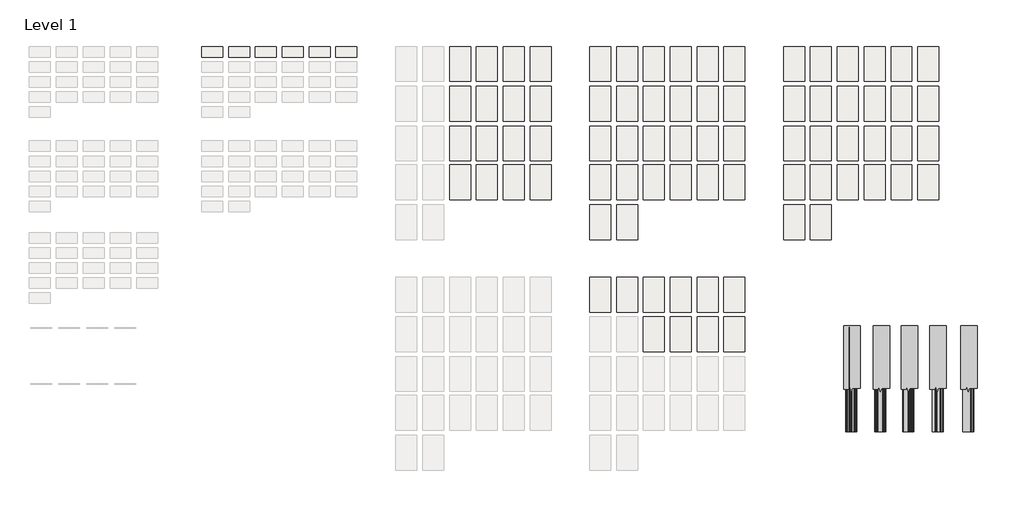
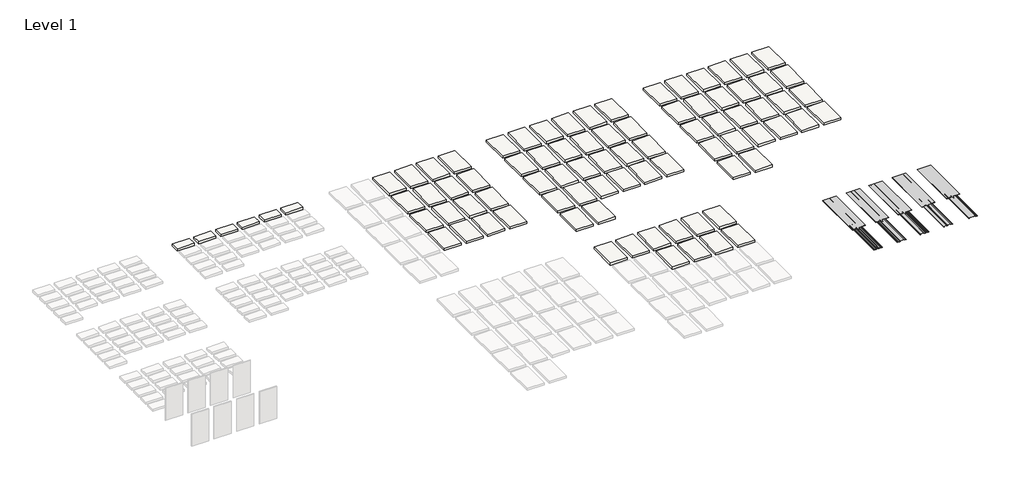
# One storey, part 3 of 3: 84 slabs, 10 proxies.
"""IFC4 building model written with IfcOpenShell, lengths in millimetres."""

from ifc_helpers import new_model, si_unit, frame, origin, place, context, project, spatial, polyline, outline, extrude, transform, mapped, element, save
from components import generic_models_2ece9b0f, generic_models_de4f6712, generic_models_fe2d6f0d, generic_models_0ef347b0, generic_models_e150f134, section_mask1_section_mask_8dde975a

model = new_model("IFC4")

# Units and contexts
model_context = context("Model", 3, world=origin())
ifc_project = project(units=[si_unit("LENGTHUNIT", "METRE", prefix="MILLI")], contexts=[model_context])

# Site, building, storey
site = spatial("IfcSite", under=ifc_project)
building = spatial("IfcBuilding", under=site)
storey = spatial("IfcBuildingStorey", under=building, Name="Level 1", Elevation=0.0)

# Proxies
placement = place(None, origin())
generic_models_shape = generic_models_2ece9b0f(model_context)
element("IfcBuildingElementProxy", 1, Name="Perception-Collection_Panel_PC-10_AEP_Span : Perception Collection PC10-12c - 20ga", ObjectType="Perception-Collection_Panel_PC-10_AEP_Span : Perception Collection PC10-12c - 20ga", at=placement, inside=storey, context=model_context, shape_type="MappedRepresentation", body=[
    mapped(generic_models_shape, transform((19743.0615812, 227.3326204, 0.0), x_axis=(1.0, 0.0, 0.0), y_axis=(0.0, 1.0, 0.0), z_axis=(0.0, 0.0, 1.0))),
])
generic_models_2_shape = generic_models_de4f6712(model_context)
element("IfcBuildingElementProxy", 2, Name="Perception-Collection_Panel_PC-20_AEP_Span : Perception Collection PC20-12c - 20ga", ObjectType="Perception-Collection_Panel_PC-20_AEP_Span : Perception Collection PC20-12c - 20ga", at=placement, inside=storey, context=model_context, shape_type="MappedRepresentation", body=[
    mapped(generic_models_2_shape, transform((20596.0575637, 227.3326204, 0.0), x_axis=(1.0, 0.0, 0.0), y_axis=(0.0, 1.0, 0.0), z_axis=(0.0, 0.0, 1.0))),
])
generic_models_3_shape = generic_models_fe2d6f0d(model_context)
element("IfcBuildingElementProxy", 3, Name="Perception-Collection_Panel_PC-30_AEP_Span : Perception Collection PC30-12c - 20ga", ObjectType="Perception-Collection_Panel_PC-30_AEP_Span : Perception Collection PC30-12c - 20ga", at=placement, inside=storey, context=model_context, shape_type="MappedRepresentation", body=[
    mapped(generic_models_3_shape, transform((21410.8596963, 227.3326204, 0.0), x_axis=(1.0, 0.0, 0.0), y_axis=(0.0, 1.0, 0.0), z_axis=(0.0, 0.0, 1.0))),
])
generic_models_4_shape = generic_models_0ef347b0(model_context)
element("IfcBuildingElementProxy", 4, Name="Perception-Collection_Panel_PC-40_AEP_Span : Perception Collection PC40-12c - 20ga", ObjectType="Perception-Collection_Panel_PC-40_AEP_Span : Perception Collection PC40-12c - 20ga", at=placement, inside=storey, context=model_context, shape_type="MappedRepresentation", body=[
    mapped(generic_models_4_shape, transform((22263.8556789, 227.3326204, 0.0), x_axis=(1.0, 0.0, 0.0), y_axis=(0.0, 1.0, 0.0), z_axis=(0.0, 0.0, 1.0))),
])
generic_models_5_shape = generic_models_e150f134(model_context)
element("IfcBuildingElementProxy", 5, Name="Perception-Collection_Panel_PC-50_AEP_Span : Perception Collection PC50-12c - 20ga", ObjectType="Perception-Collection_Panel_PC-50_AEP_Span : Perception Collection PC50-12c - 20ga", at=placement, inside=storey, context=model_context, shape_type="MappedRepresentation", body=[
    mapped(generic_models_5_shape, transform((23155.0455114, 227.3326204, 0.0), x_axis=(1.0, 0.0, 0.0), y_axis=(0.0, 1.0, 0.0), z_axis=(0.0, 0.0, 1.0))),
])
section_mask1_section_mask_shape = section_mask1_section_mask_8dde975a(model_context)
element("IfcBuildingElementProxy", 6, Name="Section Mask1 : Section Mask", ObjectType="Section Mask1 : Section Mask", at=placement, inside=storey, context=model_context, shape_type="MappedRepresentation", body=[
    mapped(section_mask1_section_mask_shape, transform((12382.9227958, -2188.6216763, -19.05), x_axis=(1.0, 0.0, 0.0), y_axis=(0.0, 1.0, 0.0), z_axis=(0.0, 0.0, 1.0))),
])
element("IfcBuildingElementProxy", 7, Name="Section Mask2 : Section Mask", ObjectType="Section Mask2 : Section Mask", at=placement, inside=storey, context=model_context, shape_type="MappedRepresentation", body=[
    mapped(section_mask1_section_mask_shape, transform((13197.7249283, -2188.6216763, -19.05), x_axis=(1.0, 0.0, 0.0), y_axis=(0.0, 1.0, 0.0), z_axis=(0.0, 0.0, 1.0))),
])
element("IfcBuildingElementProxy", 8, Name="Section Mask3 : Section Mask", ObjectType="Section Mask3 : Section Mask", at=placement, inside=storey, context=model_context, shape_type="MappedRepresentation", body=[
    mapped(section_mask1_section_mask_shape, transform((11529.9268132, -2188.6216763, -19.05), x_axis=(1.0, 0.0, 0.0), y_axis=(0.0, 1.0, 0.0), z_axis=(0.0, 0.0, 1.0))),
])
element("IfcBuildingElementProxy", 9, Name="Section Mask4 : Section Mask", ObjectType="Section Mask4 : Section Mask", at=placement, inside=storey, context=model_context, shape_type="MappedRepresentation", body=[
    mapped(section_mask1_section_mask_shape, transform((14034.0550498, -2188.6216763, -19.05), x_axis=(1.0, 0.0, 0.0), y_axis=(0.0, 1.0, 0.0), z_axis=(0.0, 0.0, 1.0))),
])
element("IfcBuildingElementProxy", 10, Name="Section Mask5 : Section Mask", ObjectType="Section Mask5 : Section Mask", at=placement, inside=storey, context=model_context, shape_type="MappedRepresentation", body=[
    mapped(section_mask1_section_mask_shape, transform((14935.8201205, -2188.6216763, -19.05), x_axis=(1.0, 0.0, 0.0), y_axis=(0.0, 1.0, 0.0), z_axis=(0.0, 0.0, 1.0))),
])

# Slabs
element("IfcSlab", 11, ObjectType="AEP Span Material Sample", at=placement, inside=storey, context=model_context, shape_type="SweptSolid", body=[
    extrude(outline(polyline([(8666.7651306, 7369.4013771), (8057.1651306, 7369.4013771), (8057.1651306, 8385.4013771), (8666.7651306, 8385.4013771), (8666.7651306, 7369.4013771)])), frame((0.0, 0.0, -79.375), z_axis=(0.0, 0.0, 1.0), x_axis=(1.0, 0.0, 0.0)), (0.0, 0.0, 1.0), 79.375),
])
element("IfcSlab", 12, ObjectType="AEP Span Material Sample", at=placement, inside=storey, context=model_context, shape_type="SweptSolid", body=[
    extrude(outline(polyline([(9447.8151306, 7369.4013771), (8838.2151306, 7369.4013771), (8838.2151306, 8385.4013771), (9447.8151306, 8385.4013771), (9447.8151306, 7369.4013771)])), frame((0.0, 0.0, -79.375), z_axis=(0.0, 0.0, 1.0), x_axis=(1.0, 0.0, 0.0)), (0.0, 0.0, 1.0), 79.375),
])
element("IfcSlab", 13, ObjectType="AEP Span Material Sample", at=placement, inside=storey, context=model_context, shape_type="SweptSolid", body=[
    extrude(outline(polyline([(10228.8651306, 7369.4013771), (9619.2651306, 7369.4013771), (9619.2651306, 8385.4013771), (10228.8651306, 8385.4013771), (10228.8651306, 7369.4013771)])), frame((0.0, 0.0, -79.375), z_axis=(0.0, 0.0, 1.0), x_axis=(1.0, 0.0, 0.0)), (0.0, 0.0, 1.0), 79.375),
])
element("IfcSlab", 14, ObjectType="AEP Span Material Sample", at=placement, inside=storey, context=model_context, shape_type="SweptSolid", body=[
    extrude(outline(polyline([(11009.9151306, 7369.4013771), (10400.3151306, 7369.4013771), (10400.3151306, 8385.4013771), (11009.9151306, 8385.4013771), (11009.9151306, 7369.4013771)])), frame((0.0, 0.0, -79.375), z_axis=(0.0, 0.0, 1.0), x_axis=(1.0, 0.0, 0.0)), (0.0, 0.0, 1.0), 79.375),
])
element("IfcSlab", 15, ObjectType="AEP Span Material Sample", at=placement, inside=storey, context=model_context, shape_type="SweptSolid", body=[
    extrude(outline(polyline([(8666.7651306, 6213.7013771), (8057.1651306, 6213.7013771), (8057.1651306, 7229.7013771), (8666.7651306, 7229.7013771), (8666.7651306, 6213.7013771)])), frame((0.0, 0.0, -79.375), z_axis=(0.0, 0.0, 1.0), x_axis=(1.0, 0.0, 0.0)), (0.0, 0.0, 1.0), 79.375),
])
element("IfcSlab", 16, ObjectType="AEP Span Material Sample", at=placement, inside=storey, context=model_context, shape_type="SweptSolid", body=[
    extrude(outline(polyline([(9447.8151306, 6213.7013771), (8838.2151306, 6213.7013771), (8838.2151306, 7229.7013771), (9447.8151306, 7229.7013771), (9447.8151306, 6213.7013771)])), frame((0.0, 0.0, -79.375), z_axis=(0.0, 0.0, 1.0), x_axis=(1.0, 0.0, 0.0)), (0.0, 0.0, 1.0), 79.375),
])
element("IfcSlab", 17, ObjectType="AEP Span Material Sample", at=placement, inside=storey, context=model_context, shape_type="SweptSolid", body=[
    extrude(outline(polyline([(10228.8651306, 6213.7013771), (9619.2651306, 6213.7013771), (9619.2651306, 7229.7013771), (10228.8651306, 7229.7013771), (10228.8651306, 6213.7013771)])), frame((0.0, 0.0, -79.375), z_axis=(0.0, 0.0, 1.0), x_axis=(1.0, 0.0, 0.0)), (0.0, 0.0, 1.0), 79.375),
])
element("IfcSlab", 18, ObjectType="AEP Span Material Sample", at=placement, inside=storey, context=model_context, shape_type="SweptSolid", body=[
    extrude(outline(polyline([(11009.9151306, 6213.7013771), (10400.3151306, 6213.7013771), (10400.3151306, 7229.7013771), (11009.9151306, 7229.7013771), (11009.9151306, 6213.7013771)])), frame((0.0, 0.0, -79.375), z_axis=(0.0, 0.0, 1.0), x_axis=(1.0, 0.0, 0.0)), (0.0, 0.0, 1.0), 79.375),
])
element("IfcSlab", 19, ObjectType="AEP Span Material Sample", at=placement, inside=storey, context=model_context, shape_type="SweptSolid", body=[
    extrude(outline(polyline([(8666.7651306, 5058.0013771), (8057.1651306, 5058.0013771), (8057.1651306, 6074.0013771), (8666.7651306, 6074.0013771), (8666.7651306, 5058.0013771)])), frame((0.0, 0.0, -79.375), z_axis=(0.0, 0.0, 1.0), x_axis=(1.0, 0.0, 0.0)), (0.0, 0.0, 1.0), 79.375),
])
element("IfcSlab", 20, ObjectType="AEP Span Material Sample", at=placement, inside=storey, context=model_context, shape_type="SweptSolid", body=[
    extrude(outline(polyline([(9447.8151306, 5058.0013771), (8838.2151306, 5058.0013771), (8838.2151306, 6074.0013771), (9447.8151306, 6074.0013771), (9447.8151306, 5058.0013771)])), frame((0.0, 0.0, -79.375), z_axis=(0.0, 0.0, 1.0), x_axis=(1.0, 0.0, 0.0)), (0.0, 0.0, 1.0), 79.375),
])
element("IfcSlab", 21, ObjectType="AEP Span Material Sample", at=placement, inside=storey, context=model_context, shape_type="SweptSolid", body=[
    extrude(outline(polyline([(10228.8651306, 5058.0013771), (9619.2651306, 5058.0013771), (9619.2651306, 6074.0013771), (10228.8651306, 6074.0013771), (10228.8651306, 5058.0013771)])), frame((0.0, 0.0, -79.375), z_axis=(0.0, 0.0, 1.0), x_axis=(1.0, 0.0, 0.0)), (0.0, 0.0, 1.0), 79.375),
])
element("IfcSlab", 22, ObjectType="AEP Span Material Sample", at=placement, inside=storey, context=model_context, shape_type="SweptSolid", body=[
    extrude(outline(polyline([(11009.9151306, 5058.0013771), (10400.3151306, 5058.0013771), (10400.3151306, 6074.0013771), (11009.9151306, 6074.0013771), (11009.9151306, 5058.0013771)])), frame((0.0, 0.0, -79.375), z_axis=(0.0, 0.0, 1.0), x_axis=(1.0, 0.0, 0.0)), (0.0, 0.0, 1.0), 79.375),
])
element("IfcSlab", 23, ObjectType="AEP Span Material Sample", at=placement, inside=storey, context=model_context, shape_type="SweptSolid", body=[
    extrude(outline(polyline([(8666.7651306, 3927.7013771), (8057.1651306, 3927.7013771), (8057.1651306, 4943.7013771), (8666.7651306, 4943.7013771), (8666.7651306, 3927.7013771)])), frame((0.0, 0.0, -79.375), z_axis=(0.0, 0.0, 1.0), x_axis=(1.0, 0.0, 0.0)), (0.0, 0.0, 1.0), 79.375),
])
element("IfcSlab", 24, ObjectType="AEP Span Material Sample", at=placement, inside=storey, context=model_context, shape_type="SweptSolid", body=[
    extrude(outline(polyline([(9447.8151306, 3927.7013771), (8838.2151306, 3927.7013771), (8838.2151306, 4943.7013771), (9447.8151306, 4943.7013771), (9447.8151306, 3927.7013771)])), frame((0.0, 0.0, -79.375), z_axis=(0.0, 0.0, 1.0), x_axis=(1.0, 0.0, 0.0)), (0.0, 0.0, 1.0), 79.375),
])
element("IfcSlab", 25, ObjectType="AEP Span Material Sample", at=placement, inside=storey, context=model_context, shape_type="SweptSolid", body=[
    extrude(outline(polyline([(10228.8651306, 3927.7013771), (9619.2651306, 3927.7013771), (9619.2651306, 4943.7013771), (10228.8651306, 4943.7013771), (10228.8651306, 3927.7013771)])), frame((0.0, 0.0, -79.375), z_axis=(0.0, 0.0, 1.0), x_axis=(1.0, 0.0, 0.0)), (0.0, 0.0, 1.0), 79.375),
])
element("IfcSlab", 26, ObjectType="AEP Span Material Sample", at=placement, inside=storey, context=model_context, shape_type="SweptSolid", body=[
    extrude(outline(polyline([(11009.9151306, 3927.7013771), (10400.3151306, 3927.7013771), (10400.3151306, 4943.7013771), (11009.9151306, 4943.7013771), (11009.9151306, 3927.7013771)])), frame((0.0, 0.0, -79.375), z_axis=(0.0, 0.0, 1.0), x_axis=(1.0, 0.0, 0.0)), (0.0, 0.0, 1.0), 79.375),
])
element("IfcSlab", 27, ObjectType="AEP Span Material Sample", at=placement, inside=storey, context=model_context, shape_type="SweptSolid", body=[
    extrude(outline(polyline([(1457.3213879, 8076.7095388), (847.7213879, 8076.7095388), (847.7213879, 8381.5095388), (1457.3213879, 8381.5095388), (1457.3213879, 8076.7095388)])), frame((0.0, 0.0, -79.375), z_axis=(0.0, 0.0, 1.0), x_axis=(1.0, 0.0, 0.0)), (0.0, 0.0, 1.0), 79.375),
])
element("IfcSlab", 28, ObjectType="AEP Span Material Sample", at=placement, inside=storey, context=model_context, shape_type="SweptSolid", body=[
    extrude(outline(polyline([(2238.3713879, 8076.7095388), (1628.7713879, 8076.7095388), (1628.7713879, 8381.5095388), (2238.3713879, 8381.5095388), (2238.3713879, 8076.7095388)])), frame((0.0, 0.0, -79.375), z_axis=(0.0, 0.0, 1.0), x_axis=(1.0, 0.0, 0.0)), (0.0, 0.0, 1.0), 79.375),
])
element("IfcSlab", 29, ObjectType="AEP Span Material Sample", at=placement, inside=storey, context=model_context, shape_type="SweptSolid", body=[
    extrude(outline(polyline([(3019.4213879, 8076.7095388), (2409.8213879, 8076.7095388), (2409.8213879, 8381.5095388), (3019.4213879, 8381.5095388), (3019.4213879, 8076.7095388)])), frame((0.0, 0.0, -79.375), z_axis=(0.0, 0.0, 1.0), x_axis=(1.0, 0.0, 0.0)), (0.0, 0.0, 1.0), 79.375),
])
element("IfcSlab", 30, ObjectType="AEP Span Material Sample", at=placement, inside=storey, context=model_context, shape_type="SweptSolid", body=[
    extrude(outline(polyline([(3800.4713879, 8076.7095388), (3190.8713879, 8076.7095388), (3190.8713879, 8381.5095388), (3800.4713879, 8381.5095388), (3800.4713879, 8076.7095388)])), frame((0.0, 0.0, -79.375), z_axis=(0.0, 0.0, 1.0), x_axis=(1.0, 0.0, 0.0)), (0.0, 0.0, 1.0), 79.375),
])
element("IfcSlab", 31, ObjectType="AEP Span Material Sample", at=placement, inside=storey, context=model_context, shape_type="SweptSolid", body=[
    extrude(outline(polyline([(4581.5213879, 8076.7095388), (3971.9213879, 8076.7095388), (3971.9213879, 8381.5095388), (4581.5213879, 8381.5095388), (4581.5213879, 8076.7095388)])), frame((0.0, 0.0, -79.375), z_axis=(0.0, 0.0, 1.0), x_axis=(1.0, 0.0, 0.0)), (0.0, 0.0, 1.0), 79.375),
])
element("IfcSlab", 32, ObjectType="AEP Span Material Sample", at=placement, inside=storey, context=model_context, shape_type="SweptSolid", body=[
    extrude(outline(polyline([(5362.5713879, 8076.7095388), (4752.9713879, 8076.7095388), (4752.9713879, 8381.5095388), (5362.5713879, 8381.5095388), (5362.5713879, 8076.7095388)])), frame((0.0, 0.0, -79.375), z_axis=(0.0, 0.0, 1.0), x_axis=(1.0, 0.0, 0.0)), (0.0, 0.0, 1.0), 79.375),
])
element("IfcSlab", 33, ObjectType="AEP Span Material Sample", at=placement, inside=storey, context=model_context, shape_type="SweptSolid", body=[
    extrude(outline(polyline([(12743.4651306, 7369.4013771), (12133.8651306, 7369.4013771), (12133.8651306, 8385.4013771), (12743.4651306, 8385.4013771), (12743.4651306, 7369.4013771)])), frame((0.0, 0.0, -79.375), z_axis=(0.0, 0.0, 1.0), x_axis=(1.0, 0.0, 0.0)), (0.0, 0.0, 1.0), 79.375),
])
element("IfcSlab", 34, ObjectType="AEP Span Material Sample", at=placement, inside=storey, context=model_context, shape_type="SweptSolid", body=[
    extrude(outline(polyline([(13524.5151306, 7369.4013771), (12914.9151306, 7369.4013771), (12914.9151306, 8385.4013771), (13524.5151306, 8385.4013771), (13524.5151306, 7369.4013771)])), frame((0.0, 0.0, -79.375), z_axis=(0.0, 0.0, 1.0), x_axis=(1.0, 0.0, 0.0)), (0.0, 0.0, 1.0), 79.375),
])
element("IfcSlab", 35, ObjectType="AEP Span Material Sample", at=placement, inside=storey, context=model_context, shape_type="SweptSolid", body=[
    extrude(outline(polyline([(14305.5651306, 7369.4013771), (13695.9651306, 7369.4013771), (13695.9651306, 8385.4013771), (14305.5651306, 8385.4013771), (14305.5651306, 7369.4013771)])), frame((0.0, 0.0, -79.375), z_axis=(0.0, 0.0, 1.0), x_axis=(1.0, 0.0, 0.0)), (0.0, 0.0, 1.0), 79.375),
])
element("IfcSlab", 36, ObjectType="AEP Span Material Sample", at=placement, inside=storey, context=model_context, shape_type="SweptSolid", body=[
    extrude(outline(polyline([(15086.6151306, 7369.4013771), (14477.0151306, 7369.4013771), (14477.0151306, 8385.4013771), (15086.6151306, 8385.4013771), (15086.6151306, 7369.4013771)])), frame((0.0, 0.0, -79.375), z_axis=(0.0, 0.0, 1.0), x_axis=(1.0, 0.0, 0.0)), (0.0, 0.0, 1.0), 79.375),
])
element("IfcSlab", 37, ObjectType="AEP Span Material Sample", at=placement, inside=storey, context=model_context, shape_type="SweptSolid", body=[
    extrude(outline(polyline([(15867.6651306, 7369.4013771), (15258.0651306, 7369.4013771), (15258.0651306, 8385.4013771), (15867.6651306, 8385.4013771), (15867.6651306, 7369.4013771)])), frame((0.0, 0.0, -79.375), z_axis=(0.0, 0.0, 1.0), x_axis=(1.0, 0.0, 0.0)), (0.0, 0.0, 1.0), 79.375),
])
element("IfcSlab", 38, ObjectType="AEP Span Material Sample", at=placement, inside=storey, context=model_context, shape_type="SweptSolid", body=[
    extrude(outline(polyline([(16648.7151306, 7369.4013771), (16039.1151306, 7369.4013771), (16039.1151306, 8385.4013771), (16648.7151306, 8385.4013771), (16648.7151306, 7369.4013771)])), frame((0.0, 0.0, -79.375), z_axis=(0.0, 0.0, 1.0), x_axis=(1.0, 0.0, 0.0)), (0.0, 0.0, 1.0), 79.375),
])
element("IfcSlab", 39, ObjectType="AEP Span Material Sample", at=placement, inside=storey, context=model_context, shape_type="SweptSolid", body=[
    extrude(outline(polyline([(12743.4651306, 6213.7013771), (12133.8651306, 6213.7013771), (12133.8651306, 7229.7013771), (12743.4651306, 7229.7013771), (12743.4651306, 6213.7013771)])), frame((0.0, 0.0, -79.375), z_axis=(0.0, 0.0, 1.0), x_axis=(1.0, 0.0, 0.0)), (0.0, 0.0, 1.0), 79.375),
])
element("IfcSlab", 40, ObjectType="AEP Span Material Sample", at=placement, inside=storey, context=model_context, shape_type="SweptSolid", body=[
    extrude(outline(polyline([(13524.5151306, 6213.7013771), (12914.9151306, 6213.7013771), (12914.9151306, 7229.7013771), (13524.5151306, 7229.7013771), (13524.5151306, 6213.7013771)])), frame((0.0, 0.0, -79.375), z_axis=(0.0, 0.0, 1.0), x_axis=(1.0, 0.0, 0.0)), (0.0, 0.0, 1.0), 79.375),
])
element("IfcSlab", 41, ObjectType="AEP Span Material Sample", at=placement, inside=storey, context=model_context, shape_type="SweptSolid", body=[
    extrude(outline(polyline([(14305.5651306, 6213.7013771), (13695.9651306, 6213.7013771), (13695.9651306, 7229.7013771), (14305.5651306, 7229.7013771), (14305.5651306, 6213.7013771)])), frame((0.0, 0.0, -79.375), z_axis=(0.0, 0.0, 1.0), x_axis=(1.0, 0.0, 0.0)), (0.0, 0.0, 1.0), 79.375),
])
element("IfcSlab", 42, ObjectType="AEP Span Material Sample", at=placement, inside=storey, context=model_context, shape_type="SweptSolid", body=[
    extrude(outline(polyline([(15086.6151306, 6213.7013771), (14477.0151306, 6213.7013771), (14477.0151306, 7229.7013771), (15086.6151306, 7229.7013771), (15086.6151306, 6213.7013771)])), frame((0.0, 0.0, -79.375), z_axis=(0.0, 0.0, 1.0), x_axis=(1.0, 0.0, 0.0)), (0.0, 0.0, 1.0), 79.375),
])
element("IfcSlab", 43, ObjectType="AEP Span Material Sample", at=placement, inside=storey, context=model_context, shape_type="SweptSolid", body=[
    extrude(outline(polyline([(15867.6651306, 6213.7013771), (15258.0651306, 6213.7013771), (15258.0651306, 7229.7013771), (15867.6651306, 7229.7013771), (15867.6651306, 6213.7013771)])), frame((0.0, 0.0, -79.375), z_axis=(0.0, 0.0, 1.0), x_axis=(1.0, 0.0, 0.0)), (0.0, 0.0, 1.0), 79.375),
])
element("IfcSlab", 44, ObjectType="AEP Span Material Sample", at=placement, inside=storey, context=model_context, shape_type="SweptSolid", body=[
    extrude(outline(polyline([(16648.7151306, 6213.7013771), (16039.1151306, 6213.7013771), (16039.1151306, 7229.7013771), (16648.7151306, 7229.7013771), (16648.7151306, 6213.7013771)])), frame((0.0, 0.0, -79.375), z_axis=(0.0, 0.0, 1.0), x_axis=(1.0, 0.0, 0.0)), (0.0, 0.0, 1.0), 79.375),
])
element("IfcSlab", 45, ObjectType="AEP Span Material Sample", at=placement, inside=storey, context=model_context, shape_type="SweptSolid", body=[
    extrude(outline(polyline([(12743.4651306, 5058.0013771), (12133.8651306, 5058.0013771), (12133.8651306, 6074.0013771), (12743.4651306, 6074.0013771), (12743.4651306, 5058.0013771)])), frame((0.0, 0.0, -79.375), z_axis=(0.0, 0.0, 1.0), x_axis=(1.0, 0.0, 0.0)), (0.0, 0.0, 1.0), 79.375),
])
element("IfcSlab", 46, ObjectType="AEP Span Material Sample", at=placement, inside=storey, context=model_context, shape_type="SweptSolid", body=[
    extrude(outline(polyline([(13524.5151306, 5058.0013771), (12914.9151306, 5058.0013771), (12914.9151306, 6074.0013771), (13524.5151306, 6074.0013771), (13524.5151306, 5058.0013771)])), frame((0.0, 0.0, -79.375), z_axis=(0.0, 0.0, 1.0), x_axis=(1.0, 0.0, 0.0)), (0.0, 0.0, 1.0), 79.375),
])
element("IfcSlab", 47, ObjectType="AEP Span Material Sample", at=placement, inside=storey, context=model_context, shape_type="SweptSolid", body=[
    extrude(outline(polyline([(14305.5651306, 5058.0013771), (13695.9651306, 5058.0013771), (13695.9651306, 6074.0013771), (14305.5651306, 6074.0013771), (14305.5651306, 5058.0013771)])), frame((0.0, 0.0, -79.375), z_axis=(0.0, 0.0, 1.0), x_axis=(1.0, 0.0, 0.0)), (0.0, 0.0, 1.0), 79.375),
])
element("IfcSlab", 48, ObjectType="AEP Span Material Sample", at=placement, inside=storey, context=model_context, shape_type="SweptSolid", body=[
    extrude(outline(polyline([(15086.6151306, 5058.0013771), (14477.0151306, 5058.0013771), (14477.0151306, 6074.0013771), (15086.6151306, 6074.0013771), (15086.6151306, 5058.0013771)])), frame((0.0, 0.0, -79.375), z_axis=(0.0, 0.0, 1.0), x_axis=(1.0, 0.0, 0.0)), (0.0, 0.0, 1.0), 79.375),
])
element("IfcSlab", 49, ObjectType="AEP Span Material Sample", at=placement, inside=storey, context=model_context, shape_type="SweptSolid", body=[
    extrude(outline(polyline([(15867.6651306, 5058.0013771), (15258.0651306, 5058.0013771), (15258.0651306, 6074.0013771), (15867.6651306, 6074.0013771), (15867.6651306, 5058.0013771)])), frame((0.0, 0.0, -79.375), z_axis=(0.0, 0.0, 1.0), x_axis=(1.0, 0.0, 0.0)), (0.0, 0.0, 1.0), 79.375),
])
element("IfcSlab", 50, ObjectType="AEP Span Material Sample", at=placement, inside=storey, context=model_context, shape_type="SweptSolid", body=[
    extrude(outline(polyline([(16648.7151306, 5058.0013771), (16039.1151306, 5058.0013771), (16039.1151306, 6074.0013771), (16648.7151306, 6074.0013771), (16648.7151306, 5058.0013771)])), frame((0.0, 0.0, -79.375), z_axis=(0.0, 0.0, 1.0), x_axis=(1.0, 0.0, 0.0)), (0.0, 0.0, 1.0), 79.375),
])
element("IfcSlab", 51, ObjectType="AEP Span Material Sample", at=placement, inside=storey, context=model_context, shape_type="SweptSolid", body=[
    extrude(outline(polyline([(12743.4651306, 3927.7013771), (12133.8651306, 3927.7013771), (12133.8651306, 4943.7013771), (12743.4651306, 4943.7013771), (12743.4651306, 3927.7013771)])), frame((0.0, 0.0, -79.375), z_axis=(0.0, 0.0, 1.0), x_axis=(1.0, 0.0, 0.0)), (0.0, 0.0, 1.0), 79.375),
])
element("IfcSlab", 52, ObjectType="AEP Span Material Sample", at=placement, inside=storey, context=model_context, shape_type="SweptSolid", body=[
    extrude(outline(polyline([(13524.5151306, 3927.7013771), (12914.9151306, 3927.7013771), (12914.9151306, 4943.7013771), (13524.5151306, 4943.7013771), (13524.5151306, 3927.7013771)])), frame((0.0, 0.0, -79.375), z_axis=(0.0, 0.0, 1.0), x_axis=(1.0, 0.0, 0.0)), (0.0, 0.0, 1.0), 79.375),
])
element("IfcSlab", 53, ObjectType="AEP Span Material Sample", at=placement, inside=storey, context=model_context, shape_type="SweptSolid", body=[
    extrude(outline(polyline([(14305.5651306, 3927.7013771), (13695.9651306, 3927.7013771), (13695.9651306, 4943.7013771), (14305.5651306, 4943.7013771), (14305.5651306, 3927.7013771)])), frame((0.0, 0.0, -79.375), z_axis=(0.0, 0.0, 1.0), x_axis=(1.0, 0.0, 0.0)), (0.0, 0.0, 1.0), 79.375),
])
element("IfcSlab", 54, ObjectType="AEP Span Material Sample", at=placement, inside=storey, context=model_context, shape_type="SweptSolid", body=[
    extrude(outline(polyline([(15086.6151306, 3927.7013771), (14477.0151306, 3927.7013771), (14477.0151306, 4943.7013771), (15086.6151306, 4943.7013771), (15086.6151306, 3927.7013771)])), frame((0.0, 0.0, -79.375), z_axis=(0.0, 0.0, 1.0), x_axis=(1.0, 0.0, 0.0)), (0.0, 0.0, 1.0), 79.375),
])
element("IfcSlab", 55, ObjectType="AEP Span Material Sample", at=placement, inside=storey, context=model_context, shape_type="SweptSolid", body=[
    extrude(outline(polyline([(15867.6651306, 3927.7013771), (15258.0651306, 3927.7013771), (15258.0651306, 4943.7013771), (15867.6651306, 4943.7013771), (15867.6651306, 3927.7013771)])), frame((0.0, 0.0, -79.375), z_axis=(0.0, 0.0, 1.0), x_axis=(1.0, 0.0, 0.0)), (0.0, 0.0, 1.0), 79.375),
])
element("IfcSlab", 56, ObjectType="AEP Span Material Sample", at=placement, inside=storey, context=model_context, shape_type="SweptSolid", body=[
    extrude(outline(polyline([(16648.7151306, 3927.7013771), (16039.1151306, 3927.7013771), (16039.1151306, 4943.7013771), (16648.7151306, 4943.7013771), (16648.7151306, 3927.7013771)])), frame((0.0, 0.0, -79.375), z_axis=(0.0, 0.0, 1.0), x_axis=(1.0, 0.0, 0.0)), (0.0, 0.0, 1.0), 79.375),
])
element("IfcSlab", 57, ObjectType="AEP Span Material Sample", at=placement, inside=storey, context=model_context, shape_type="SweptSolid", body=[
    extrude(outline(polyline([(12743.4651306, 2772.0013771), (12133.8651306, 2772.0013771), (12133.8651306, 3788.0013771), (12743.4651306, 3788.0013771), (12743.4651306, 2772.0013771)])), frame((0.0, 0.0, -79.375), z_axis=(0.0, 0.0, 1.0), x_axis=(1.0, 0.0, 0.0)), (0.0, 0.0, 1.0), 79.375),
])
element("IfcSlab", 58, ObjectType="AEP Span Material Sample", at=placement, inside=storey, context=model_context, shape_type="SweptSolid", body=[
    extrude(outline(polyline([(13524.5151306, 2772.0013771), (12914.9151306, 2772.0013771), (12914.9151306, 3788.0013771), (13524.5151306, 3788.0013771), (13524.5151306, 2772.0013771)])), frame((0.0, 0.0, -79.375), z_axis=(0.0, 0.0, 1.0), x_axis=(1.0, 0.0, 0.0)), (0.0, 0.0, 1.0), 79.375),
])
element("IfcSlab", 59, ObjectType="AEP Span Material Sample", at=placement, inside=storey, context=model_context, shape_type="SweptSolid", body=[
    extrude(outline(polyline([(18382.2651306, 7369.4013771), (17772.6651306, 7369.4013771), (17772.6651306, 8385.4013771), (18382.2651306, 8385.4013771), (18382.2651306, 7369.4013771)])), frame((0.0, 0.0, -79.375), z_axis=(0.0, 0.0, 1.0), x_axis=(1.0, 0.0, 0.0)), (0.0, 0.0, 1.0), 79.375),
])
element("IfcSlab", 60, ObjectType="AEP Span Material Sample", at=placement, inside=storey, context=model_context, shape_type="SweptSolid", body=[
    extrude(outline(polyline([(19163.3151306, 7369.4013771), (18553.7151306, 7369.4013771), (18553.7151306, 8385.4013771), (19163.3151306, 8385.4013771), (19163.3151306, 7369.4013771)])), frame((0.0, 0.0, -79.375), z_axis=(0.0, 0.0, 1.0), x_axis=(1.0, 0.0, 0.0)), (0.0, 0.0, 1.0), 79.375),
])
element("IfcSlab", 61, ObjectType="AEP Span Material Sample", at=placement, inside=storey, context=model_context, shape_type="SweptSolid", body=[
    extrude(outline(polyline([(19944.3651306, 7369.4013771), (19334.7651306, 7369.4013771), (19334.7651306, 8385.4013771), (19944.3651306, 8385.4013771), (19944.3651306, 7369.4013771)])), frame((0.0, 0.0, -79.375), z_axis=(0.0, 0.0, 1.0), x_axis=(1.0, 0.0, 0.0)), (0.0, 0.0, 1.0), 79.375),
])
element("IfcSlab", 62, ObjectType="AEP Span Material Sample", at=placement, inside=storey, context=model_context, shape_type="SweptSolid", body=[
    extrude(outline(polyline([(20725.4151306, 7369.4013771), (20115.8151306, 7369.4013771), (20115.8151306, 8385.4013771), (20725.4151306, 8385.4013771), (20725.4151306, 7369.4013771)])), frame((0.0, 0.0, -79.375), z_axis=(0.0, 0.0, 1.0), x_axis=(1.0, 0.0, 0.0)), (0.0, 0.0, 1.0), 79.375),
])
element("IfcSlab", 63, ObjectType="AEP Span Material Sample", at=placement, inside=storey, context=model_context, shape_type="SweptSolid", body=[
    extrude(outline(polyline([(21506.4651306, 7369.4013771), (20896.8651306, 7369.4013771), (20896.8651306, 8385.4013771), (21506.4651306, 8385.4013771), (21506.4651306, 7369.4013771)])), frame((0.0, 0.0, -79.375), z_axis=(0.0, 0.0, 1.0), x_axis=(1.0, 0.0, 0.0)), (0.0, 0.0, 1.0), 79.375),
])
element("IfcSlab", 64, ObjectType="AEP Span Material Sample", at=placement, inside=storey, context=model_context, shape_type="SweptSolid", body=[
    extrude(outline(polyline([(22287.5151306, 7369.4013771), (21677.9151306, 7369.4013771), (21677.9151306, 8385.4013771), (22287.5151306, 8385.4013771), (22287.5151306, 7369.4013771)])), frame((0.0, 0.0, -79.375), z_axis=(0.0, 0.0, 1.0), x_axis=(1.0, 0.0, 0.0)), (0.0, 0.0, 1.0), 79.375),
])
element("IfcSlab", 65, ObjectType="AEP Span Material Sample", at=placement, inside=storey, context=model_context, shape_type="SweptSolid", body=[
    extrude(outline(polyline([(18382.2651306, 6213.7013771), (17772.6651306, 6213.7013771), (17772.6651306, 7229.7013771), (18382.2651306, 7229.7013771), (18382.2651306, 6213.7013771)])), frame((0.0, 0.0, -79.375), z_axis=(0.0, 0.0, 1.0), x_axis=(1.0, 0.0, 0.0)), (0.0, 0.0, 1.0), 79.375),
])
element("IfcSlab", 66, ObjectType="AEP Span Material Sample", at=placement, inside=storey, context=model_context, shape_type="SweptSolid", body=[
    extrude(outline(polyline([(19163.3151306, 6213.7013771), (18553.7151306, 6213.7013771), (18553.7151306, 7229.7013771), (19163.3151306, 7229.7013771), (19163.3151306, 6213.7013771)])), frame((0.0, 0.0, -79.375), z_axis=(0.0, 0.0, 1.0), x_axis=(1.0, 0.0, 0.0)), (0.0, 0.0, 1.0), 79.375),
])
element("IfcSlab", 67, ObjectType="AEP Span Material Sample", at=placement, inside=storey, context=model_context, shape_type="SweptSolid", body=[
    extrude(outline(polyline([(19944.3651306, 6213.7013771), (19334.7651306, 6213.7013771), (19334.7651306, 7229.7013771), (19944.3651306, 7229.7013771), (19944.3651306, 6213.7013771)])), frame((0.0, 0.0, -79.375), z_axis=(0.0, 0.0, 1.0), x_axis=(1.0, 0.0, 0.0)), (0.0, 0.0, 1.0), 79.375),
])
element("IfcSlab", 68, ObjectType="AEP Span Material Sample", at=placement, inside=storey, context=model_context, shape_type="SweptSolid", body=[
    extrude(outline(polyline([(20725.4151306, 6213.7013771), (20115.8151306, 6213.7013771), (20115.8151306, 7229.7013771), (20725.4151306, 7229.7013771), (20725.4151306, 6213.7013771)])), frame((0.0, 0.0, -79.375), z_axis=(0.0, 0.0, 1.0), x_axis=(1.0, 0.0, 0.0)), (0.0, 0.0, 1.0), 79.375),
])
element("IfcSlab", 69, ObjectType="AEP Span Material Sample", at=placement, inside=storey, context=model_context, shape_type="SweptSolid", body=[
    extrude(outline(polyline([(21506.4651306, 6213.7013771), (20896.8651306, 6213.7013771), (20896.8651306, 7229.7013771), (21506.4651306, 7229.7013771), (21506.4651306, 6213.7013771)])), frame((0.0, 0.0, -79.375), z_axis=(0.0, 0.0, 1.0), x_axis=(1.0, 0.0, 0.0)), (0.0, 0.0, 1.0), 79.375),
])
element("IfcSlab", 70, ObjectType="AEP Span Material Sample", at=placement, inside=storey, context=model_context, shape_type="SweptSolid", body=[
    extrude(outline(polyline([(22287.5151306, 6213.7013771), (21677.9151306, 6213.7013771), (21677.9151306, 7229.7013771), (22287.5151306, 7229.7013771), (22287.5151306, 6213.7013771)])), frame((0.0, 0.0, -79.375), z_axis=(0.0, 0.0, 1.0), x_axis=(1.0, 0.0, 0.0)), (0.0, 0.0, 1.0), 79.375),
])
element("IfcSlab", 71, ObjectType="AEP Span Material Sample", at=placement, inside=storey, context=model_context, shape_type="SweptSolid", body=[
    extrude(outline(polyline([(18382.2651306, 5058.0013771), (17772.6651306, 5058.0013771), (17772.6651306, 6074.0013771), (18382.2651306, 6074.0013771), (18382.2651306, 5058.0013771)])), frame((0.0, 0.0, -79.375), z_axis=(0.0, 0.0, 1.0), x_axis=(1.0, 0.0, 0.0)), (0.0, 0.0, 1.0), 79.375),
])
element("IfcSlab", 72, ObjectType="AEP Span Material Sample", at=placement, inside=storey, context=model_context, shape_type="SweptSolid", body=[
    extrude(outline(polyline([(19163.3151306, 5058.0013771), (18553.7151306, 5058.0013771), (18553.7151306, 6074.0013771), (19163.3151306, 6074.0013771), (19163.3151306, 5058.0013771)])), frame((0.0, 0.0, -79.375), z_axis=(0.0, 0.0, 1.0), x_axis=(1.0, 0.0, 0.0)), (0.0, 0.0, 1.0), 79.375),
])
element("IfcSlab", 73, ObjectType="AEP Span Material Sample", at=placement, inside=storey, context=model_context, shape_type="SweptSolid", body=[
    extrude(outline(polyline([(19944.3651306, 5058.0013771), (19334.7651306, 5058.0013771), (19334.7651306, 6074.0013771), (19944.3651306, 6074.0013771), (19944.3651306, 5058.0013771)])), frame((0.0, 0.0, -79.375), z_axis=(0.0, 0.0, 1.0), x_axis=(1.0, 0.0, 0.0)), (0.0, 0.0, 1.0), 79.375),
])
element("IfcSlab", 74, ObjectType="AEP Span Material Sample", at=placement, inside=storey, context=model_context, shape_type="SweptSolid", body=[
    extrude(outline(polyline([(20725.4151306, 5058.0013771), (20115.8151306, 5058.0013771), (20115.8151306, 6074.0013771), (20725.4151306, 6074.0013771), (20725.4151306, 5058.0013771)])), frame((0.0, 0.0, -79.375), z_axis=(0.0, 0.0, 1.0), x_axis=(1.0, 0.0, 0.0)), (0.0, 0.0, 1.0), 79.375),
])
element("IfcSlab", 75, ObjectType="AEP Span Material Sample", at=placement, inside=storey, context=model_context, shape_type="SweptSolid", body=[
    extrude(outline(polyline([(21506.4651306, 5058.0013771), (20896.8651306, 5058.0013771), (20896.8651306, 6074.0013771), (21506.4651306, 6074.0013771), (21506.4651306, 5058.0013771)])), frame((0.0, 0.0, -79.375), z_axis=(0.0, 0.0, 1.0), x_axis=(1.0, 0.0, 0.0)), (0.0, 0.0, 1.0), 79.375),
])
element("IfcSlab", 76, ObjectType="AEP Span Material Sample", at=placement, inside=storey, context=model_context, shape_type="SweptSolid", body=[
    extrude(outline(polyline([(22287.5151306, 5058.0013771), (21677.9151306, 5058.0013771), (21677.9151306, 6074.0013771), (22287.5151306, 6074.0013771), (22287.5151306, 5058.0013771)])), frame((0.0, 0.0, -79.375), z_axis=(0.0, 0.0, 1.0), x_axis=(1.0, 0.0, 0.0)), (0.0, 0.0, 1.0), 79.375),
])
element("IfcSlab", 77, ObjectType="AEP Span Material Sample", at=placement, inside=storey, context=model_context, shape_type="SweptSolid", body=[
    extrude(outline(polyline([(18382.2651306, 3927.7013771), (17772.6651306, 3927.7013771), (17772.6651306, 4943.7013771), (18382.2651306, 4943.7013771), (18382.2651306, 3927.7013771)])), frame((0.0, 0.0, -79.375), z_axis=(0.0, 0.0, 1.0), x_axis=(1.0, 0.0, 0.0)), (0.0, 0.0, 1.0), 79.375),
])
element("IfcSlab", 78, ObjectType="AEP Span Material Sample", at=placement, inside=storey, context=model_context, shape_type="SweptSolid", body=[
    extrude(outline(polyline([(19163.3151306, 3927.7013771), (18553.7151306, 3927.7013771), (18553.7151306, 4943.7013771), (19163.3151306, 4943.7013771), (19163.3151306, 3927.7013771)])), frame((0.0, 0.0, -79.375), z_axis=(0.0, 0.0, 1.0), x_axis=(1.0, 0.0, 0.0)), (0.0, 0.0, 1.0), 79.375),
])
element("IfcSlab", 79, ObjectType="AEP Span Material Sample", at=placement, inside=storey, context=model_context, shape_type="SweptSolid", body=[
    extrude(outline(polyline([(19944.3651306, 3927.7013771), (19334.7651306, 3927.7013771), (19334.7651306, 4943.7013771), (19944.3651306, 4943.7013771), (19944.3651306, 3927.7013771)])), frame((0.0, 0.0, -79.375), z_axis=(0.0, 0.0, 1.0), x_axis=(1.0, 0.0, 0.0)), (0.0, 0.0, 1.0), 79.375),
])
element("IfcSlab", 80, ObjectType="AEP Span Material Sample", at=placement, inside=storey, context=model_context, shape_type="SweptSolid", body=[
    extrude(outline(polyline([(20725.4151306, 3927.7013771), (20115.8151306, 3927.7013771), (20115.8151306, 4943.7013771), (20725.4151306, 4943.7013771), (20725.4151306, 3927.7013771)])), frame((0.0, 0.0, -79.375), z_axis=(0.0, 0.0, 1.0), x_axis=(1.0, 0.0, 0.0)), (0.0, 0.0, 1.0), 79.375),
])
element("IfcSlab", 81, ObjectType="AEP Span Material Sample", at=placement, inside=storey, context=model_context, shape_type="SweptSolid", body=[
    extrude(outline(polyline([(21506.4651306, 3927.7013771), (20896.8651306, 3927.7013771), (20896.8651306, 4943.7013771), (21506.4651306, 4943.7013771), (21506.4651306, 3927.7013771)])), frame((0.0, 0.0, -79.375), z_axis=(0.0, 0.0, 1.0), x_axis=(1.0, 0.0, 0.0)), (0.0, 0.0, 1.0), 79.375),
])
element("IfcSlab", 82, ObjectType="AEP Span Material Sample", at=placement, inside=storey, context=model_context, shape_type="SweptSolid", body=[
    extrude(outline(polyline([(22287.5151306, 3927.7013771), (21677.9151306, 3927.7013771), (21677.9151306, 4943.7013771), (22287.5151306, 4943.7013771), (22287.5151306, 3927.7013771)])), frame((0.0, 0.0, -79.375), z_axis=(0.0, 0.0, 1.0), x_axis=(1.0, 0.0, 0.0)), (0.0, 0.0, 1.0), 79.375),
])
element("IfcSlab", 83, ObjectType="AEP Span Material Sample", at=placement, inside=storey, context=model_context, shape_type="SweptSolid", body=[
    extrude(outline(polyline([(18382.2651306, 2772.0013771), (17772.6651306, 2772.0013771), (17772.6651306, 3788.0013771), (18382.2651306, 3788.0013771), (18382.2651306, 2772.0013771)])), frame((0.0, 0.0, -79.375), z_axis=(0.0, 0.0, 1.0), x_axis=(1.0, 0.0, 0.0)), (0.0, 0.0, 1.0), 79.375),
])
element("IfcSlab", 84, ObjectType="AEP Span Material Sample", at=placement, inside=storey, context=model_context, shape_type="SweptSolid", body=[
    extrude(outline(polyline([(19163.3151306, 2772.0013771), (18553.7151306, 2772.0013771), (18553.7151306, 3788.0013771), (19163.3151306, 3788.0013771), (19163.3151306, 2772.0013771)])), frame((0.0, 0.0, -79.375), z_axis=(0.0, 0.0, 1.0), x_axis=(1.0, 0.0, 0.0)), (0.0, 0.0, 1.0), 79.375),
])
element("IfcSlab", 85, ObjectType="AEP Span Material Sample", at=placement, inside=storey, context=model_context, shape_type="SweptSolid", body=[
    extrude(outline(polyline([(12743.4651306, 663.8013771), (12133.8651306, 663.8013771), (12133.8651306, 1679.8013771), (12743.4651306, 1679.8013771), (12743.4651306, 663.8013771)])), frame((0.0, 0.0, -79.375), z_axis=(0.0, 0.0, 1.0), x_axis=(1.0, 0.0, 0.0)), (0.0, 0.0, 1.0), 79.375),
])
element("IfcSlab", 86, ObjectType="AEP Span Material Sample", at=placement, inside=storey, context=model_context, shape_type="SweptSolid", body=[
    extrude(outline(polyline([(13524.5151306, 663.8013771), (12914.9151306, 663.8013771), (12914.9151306, 1679.8013771), (13524.5151306, 1679.8013771), (13524.5151306, 663.8013771)])), frame((0.0, 0.0, -79.375), z_axis=(0.0, 0.0, 1.0), x_axis=(1.0, 0.0, 0.0)), (0.0, 0.0, 1.0), 79.375),
])
element("IfcSlab", 87, ObjectType="AEP Span Material Sample", at=placement, inside=storey, context=model_context, shape_type="SweptSolid", body=[
    extrude(outline(polyline([(14305.5651306, 663.8013771), (13695.9651306, 663.8013771), (13695.9651306, 1679.8013771), (14305.5651306, 1679.8013771), (14305.5651306, 663.8013771)])), frame((0.0, 0.0, -79.375), z_axis=(0.0, 0.0, 1.0), x_axis=(1.0, 0.0, 0.0)), (0.0, 0.0, 1.0), 79.375),
])
element("IfcSlab", 88, ObjectType="AEP Span Material Sample", at=placement, inside=storey, context=model_context, shape_type="SweptSolid", body=[
    extrude(outline(polyline([(15086.6151306, 663.8013771), (14477.0151306, 663.8013771), (14477.0151306, 1679.8013771), (15086.6151306, 1679.8013771), (15086.6151306, 663.8013771)])), frame((0.0, 0.0, -79.375), z_axis=(0.0, 0.0, 1.0), x_axis=(1.0, 0.0, 0.0)), (0.0, 0.0, 1.0), 79.375),
])
element("IfcSlab", 89, ObjectType="AEP Span Material Sample", at=placement, inside=storey, context=model_context, shape_type="SweptSolid", body=[
    extrude(outline(polyline([(15867.6651306, 663.8013771), (15258.0651306, 663.8013771), (15258.0651306, 1679.8013771), (15867.6651306, 1679.8013771), (15867.6651306, 663.8013771)])), frame((0.0, 0.0, -79.375), z_axis=(0.0, 0.0, 1.0), x_axis=(1.0, 0.0, 0.0)), (0.0, 0.0, 1.0), 79.375),
])
element("IfcSlab", 90, ObjectType="AEP Span Material Sample", at=placement, inside=storey, context=model_context, shape_type="SweptSolid", body=[
    extrude(outline(polyline([(16648.7151306, 663.8013771), (16039.1151306, 663.8013771), (16039.1151306, 1679.8013771), (16648.7151306, 1679.8013771), (16648.7151306, 663.8013771)])), frame((0.0, 0.0, -79.375), z_axis=(0.0, 0.0, 1.0), x_axis=(1.0, 0.0, 0.0)), (0.0, 0.0, 1.0), 79.375),
])
element("IfcSlab", 91, ObjectType="AEP Span Material Sample", at=placement, inside=storey, context=model_context, shape_type="SweptSolid", body=[
    extrude(outline(polyline([(14305.5651306, -491.8986229), (13695.9651306, -491.8986229), (13695.9651306, 524.1013771), (14305.5651306, 524.1013771), (14305.5651306, -491.8986229)])), frame((0.0, 0.0, -79.375), z_axis=(0.0, 0.0, 1.0), x_axis=(1.0, 0.0, 0.0)), (0.0, 0.0, 1.0), 79.375),
])
element("IfcSlab", 92, ObjectType="AEP Span Material Sample", at=placement, inside=storey, context=model_context, shape_type="SweptSolid", body=[
    extrude(outline(polyline([(15086.6151306, -491.8986229), (14477.0151306, -491.8986229), (14477.0151306, 524.1013771), (15086.6151306, 524.1013771), (15086.6151306, -491.8986229)])), frame((0.0, 0.0, -79.375), z_axis=(0.0, 0.0, 1.0), x_axis=(1.0, 0.0, 0.0)), (0.0, 0.0, 1.0), 79.375),
])
element("IfcSlab", 93, ObjectType="AEP Span Material Sample", at=placement, inside=storey, context=model_context, shape_type="SweptSolid", body=[
    extrude(outline(polyline([(15867.6651306, -491.8986229), (15258.0651306, -491.8986229), (15258.0651306, 524.1013771), (15867.6651306, 524.1013771), (15867.6651306, -491.8986229)])), frame((0.0, 0.0, -79.375), z_axis=(0.0, 0.0, 1.0), x_axis=(1.0, 0.0, 0.0)), (0.0, 0.0, 1.0), 79.375),
])
element("IfcSlab", 94, ObjectType="AEP Span Material Sample", at=placement, inside=storey, context=model_context, shape_type="SweptSolid", body=[
    extrude(outline(polyline([(16648.7151306, -491.8986229), (16039.1151306, -491.8986229), (16039.1151306, 524.1013771), (16648.7151306, 524.1013771), (16648.7151306, -491.8986229)])), frame((0.0, 0.0, -79.375), z_axis=(0.0, 0.0, 1.0), x_axis=(1.0, 0.0, 0.0)), (0.0, 0.0, 1.0), 79.375),
])

save(model, "model.ifc")
